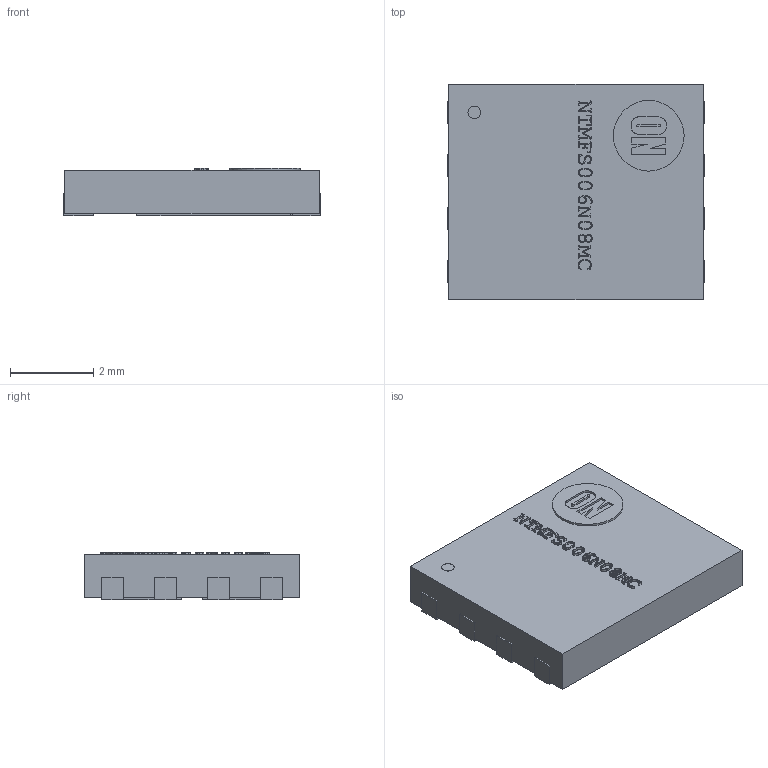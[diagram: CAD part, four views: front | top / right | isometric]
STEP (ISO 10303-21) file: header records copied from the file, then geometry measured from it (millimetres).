
FILE_DESCRIPTION(/* description */ ('STEP AP214'),/* implementation_level */ '2;1');
FILE_NAME(/* name */ 'METUPowerLab_Transistors_MOSFETs_8-PowerTDFN(5x6mm)_NTMFS006N08MC.step',/* time_stamp */ '2025-10-06T22:34:24+02:00',/* author */ (''),/* organization */ (''),/* preprocessor_version */ 'ST-DEVELOPER v20.1',/* originating_system */ 'Autodesk Translation Framework v14.17.0.0',/* authorisation */ '');
FILE_SCHEMA (('AUTOMOTIVE_DESIGN { 1 0 10303 214 3 1 1 }'));
Length unit declared in the file: millimetre
Products named in the file (1): product
Bounding box: 6.15 x 5.16 x 1.14 mm (x, y, z)
Volume: 35.1 mm3; surface area: 134.1 mm2
Topology: 12 solids, 12 shells, 594 faces, 1641 edges, 1094 vertices
Faces by surface type: bspline 367, plane 225, cylinder 2
Full cylindrical faces by diameter (mm): 0.305 x1, 1.693 x1
Entity records: 22171 total; most frequent: CARTESIAN_POINT 9473, ORIENTED_EDGE 3282, EDGE_CURVE 1641, DIRECTION 1367, VERTEX_POINT 1094, LINE 903, VECTOR 903, B_SPLINE_CURVE_WITH_KNOTS 686
